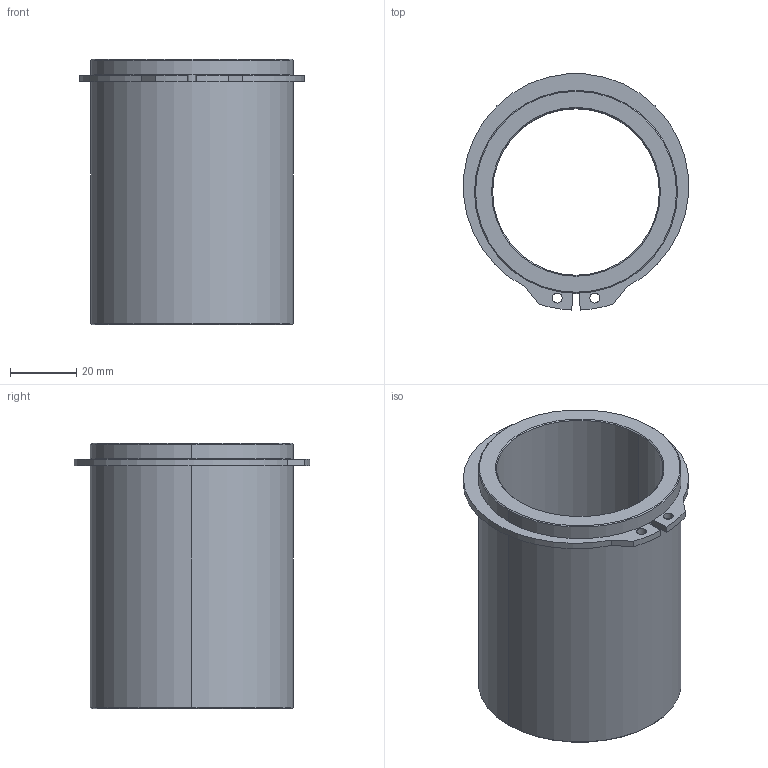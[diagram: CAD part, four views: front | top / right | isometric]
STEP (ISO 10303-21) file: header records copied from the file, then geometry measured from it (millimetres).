
FILE_DESCRIPTION((''),'2;1');
FILE_NAME('C13_050_080.stp','2008-12-17T16:09:48',(''),(''),'Mechanical Desktop 2009','Mechanical Desktop 2009',', , ');
FILE_SCHEMA(('CONFIG_CONTROL_DESIGN'));
Length unit declared in the file: millimetre
Products named in the file (2): Product; blmdl1
Assembly tree (1 placements, depth 2):
  Product
    blmdl1
Bounding box: 67.9 x 71.23 x 80 mm (x, y, z)
Volume: 77868.7 mm3; surface area: 33078.5 mm2
Topology: 2 solids, 2 shells, 34 faces, 76 edges, 48 vertices
Faces by surface type: cylinder 16, plane 10, cone 8
Entity records: 1075 total; most frequent: DIRECTION 188, CARTESIAN_POINT 160, ORIENTED_EDGE 152, AXIS2_PLACEMENT_3D 76, EDGE_CURVE 76, VERTEX_POINT 48, EDGE_LOOP 42, CIRCLE 40
